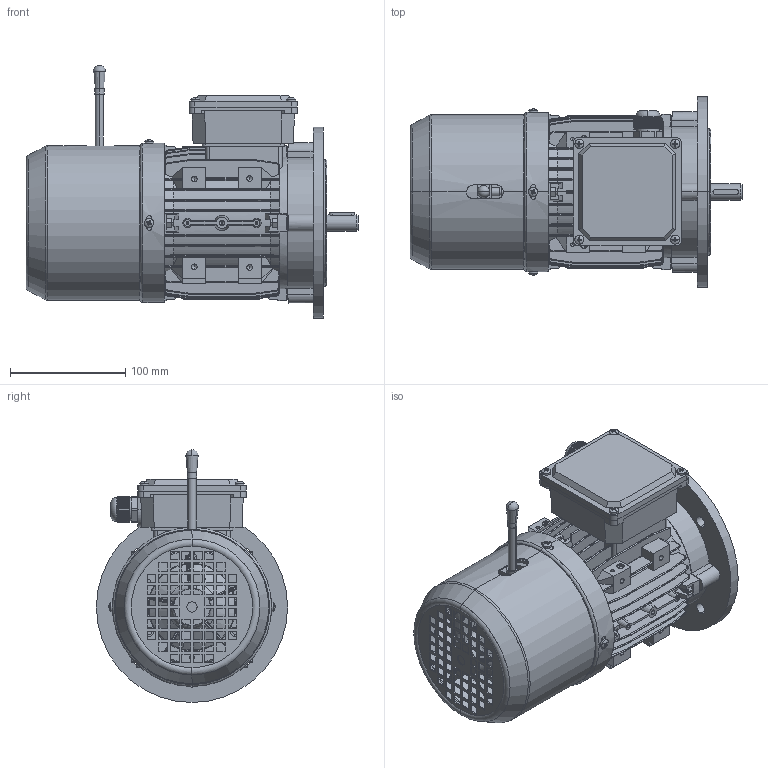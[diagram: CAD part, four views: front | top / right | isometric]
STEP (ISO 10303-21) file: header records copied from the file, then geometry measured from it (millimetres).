
FILE_DESCRIPTION (( 'STEP AP214' ), '1' );
FILE_NAME ('BCL0025.07B405.11.STEP', '2020-04-22T14:30:22', ( '' ), ( '' ), 'SwSTEP 2.0', 'SolidWorks 2019', '' );
FILE_SCHEMA (( 'AUTOMOTIVE_DESIGN' ));
Length unit declared in the file: millimetre
Products named in the file (1): BCL0025.07B405.11
Bounding box: 287.99 x 165.81 x 219.53 mm (x, y, z)
Volume: 1006756.7 mm3; surface area: 562347.4 mm2
Topology: 33 solids, 33 shells, 4012 faces, 10650 edges, 6737 vertices
Faces by surface type: plane 2151, cylinder 1202, cone 311, bspline 252, torus 70, sphere 26
Entity records: 187095 total; most frequent: CARTESIAN_POINT 46020, ORIENTED_EDGE 21132, DIRECTION 18855, EDGE_CURVE 10566, VERTEX_POINT 6737, AXIS2_PLACEMENT_3D 6361, VECTOR 6133, LINE 6133
